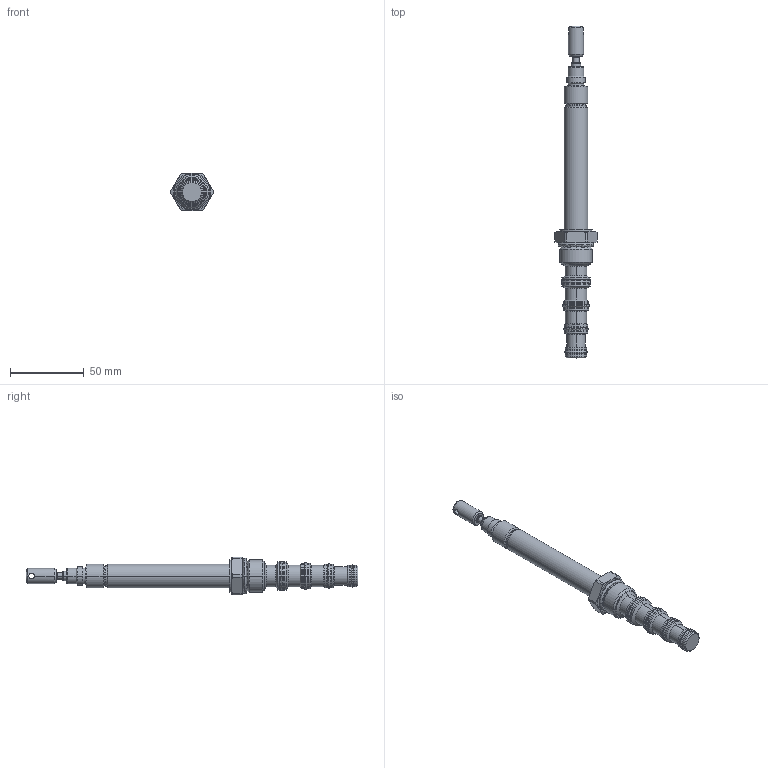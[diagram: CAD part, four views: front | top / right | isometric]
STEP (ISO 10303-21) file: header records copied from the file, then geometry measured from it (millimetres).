
FILE_DESCRIPTION((''),'2;1');
FILE_NAME('5039050_SW0008','2009-02-27T',('JCS'),(''),'PRO/ENGINEER BY PARAMETRIC TECHNOLOGY CORPORATION, 2008010','PRO/ENGINEER BY PARAMETRIC TECHNOLOGY CORPORATION, 2008010','');
FILE_SCHEMA(('CONFIG_CONTROL_DESIGN'));
Length unit declared in the file: inch
Products named in the file (1): 5039050_SW0008
Bounding box: 28.57 x 224.41 x 25.4 mm (x, y, z)
Volume: 43967.6 mm3; surface area: 16024.3 mm2
Topology: 9 solids, 9 shells, 302 faces, 632 edges, 358 vertices
Faces by surface type: cylinder 106, cone 84, revolution 40, plane 36, torus 36
Entity records: 8924 total; most frequent: CARTESIAN_POINT 2304, DIRECTION 1500, ORIENTED_EDGE 1264, AXIS2_PLACEMENT_3D 634, EDGE_CURVE 632, CIRCLE 372, VERTEX_POINT 358, EDGE_LOOP 330
